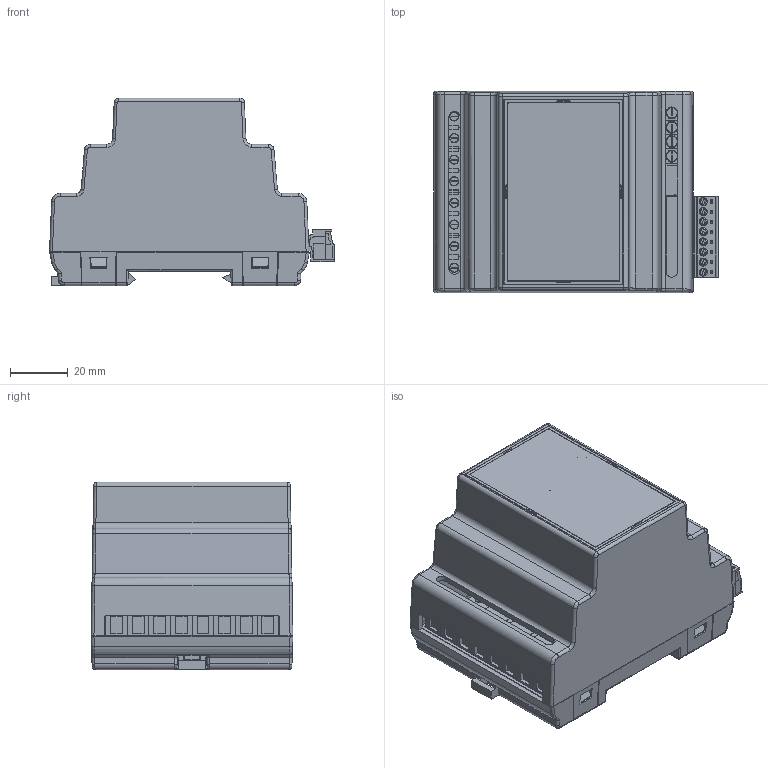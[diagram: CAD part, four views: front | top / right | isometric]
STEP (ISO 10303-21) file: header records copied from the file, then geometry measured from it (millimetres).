
FILE_DESCRIPTION(/* description */ ('','CAx-IF Rec.Pracs.---Representation and Presentation of Product Manufacturing Information (PMI)---3.8---2014-02-18'),/* implementation_level */ '2;1');
FILE_NAME(/* name */ 'C:\Users\user\Desktop\OP-1015 (PS-06m).stp',/* time_stamp */ '2024-08-29T13:52:30+02:00',/* author */ ('user'),/* organization */ (''),/* preprocessor_version */ 'ST-DEVELOPER v16.13',/* originating_system */ 'Autodesk Inventor 2018',/* authorisation */ '');
FILE_SCHEMA (('AP242_MANAGED_MODEL_BASED_3D_ENGINEERING_MIM_LF { 1 0 10303 442 1 1 4 }'));
Products named in the file (45): OP-1015; OP-1015_A; OP-1015-B_1; OP-1015_D; OP-1015_E; OP-267-D; OP-1015_naklejka-03; S_023.05.000.00058/...061; ST-1007_2_0_B; PCB Component; Board; GQ-SS_10A; GQ-SS-105LM1; DIODE-1206; SOT23-BEC; R0805; 1X10; FIDUCIAL_G10; FIDUCIAL_P10; ULO-TB71-128_5.0-02P-4000A_STANDARD; TB-7.5-P-2P-S; TSOT6; C1206; SOD80C; C0805; SMA_A; WE-TPC_5818_5828; C1206 (1); BSMD-S; SMB_A; CSV-E_F; SOT23; 15EDG-3.5-8P(H-Vwt); 15EDGRC-3.5; 15EDGRC-3.5_1; 15EDGRC-3.5-thickening; 15EDGRC-3.5-PIN; 15EDGK-3.5; 15EDGK-3.5_1; 15EDGK-3.5_top-cap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
Assembly tree (114 placements, depth 6):
  OP-1015
    OP-1015_A
    OP-1015-B_1
    OP-1015_D
    OP-1015_E
    OP-267-D
    OP-1015_naklejka-03
    S_023.05.000.00058/...061  x4
    ST-1007_2_0_B
      PCB Component
        Board
        GQ-SS_10A  x2
        GQ-SS-105LM1  x4
        DIODE-1206  x6
        SOT23-BEC  x6
        R0805  x8
        1X10
        FIDUCIAL_G10  x2
        FIDUCIAL_P10  x2
        ULO-TB71-128_5.0-02P-4000A_STANDARD  x2
        TB-7.5-P-2P-S  x4
        TSOT6
        C1206
        SOD80C
        C0805
        SMA_A
        WE-TPC_5818_5828
        C1206 (1)
        BSMD-S
        SMB_A
        CSV-E_F  x2
        SOT23
        15EDG-3.5-8P(H-Vwt)
          15EDGRC-3.5
            15EDGRC-3.5_1
            15EDGRC-3.5-PIN  x8
            15EDGRC-3.5-thickening  x2
          15EDGK-3.5
            15EDGK-3.5_klamper  x8
            15EDGK-3.5_screw  x8
            15EDGK-3.5_spring  x8
            15EDGK-3.5_1
            15EDGK-3.5_top-cap
        Skręcana łączka_1pin  x4
        ŁĄCZKA 7,5MM  x8
Bounding box: 98.84 x 70 x 65.06 mm (x, y, z)
Volume: 76518.4 mm3; surface area: 104952.4 mm2
Topology: 117 solids, 117 shells, 6039 faces, 16276 edges, 10758 vertices
Faces by surface type: plane 4302, bspline 916, cylinder 619, cone 156, torus 40, sphere 6
Full cylindrical faces by diameter (mm): 0.5 x110, 0.6 x9, 1 x20, 1.016 x10, 1.2 x16, 1.3 x20, 1.5 x16, 1.6 x2, 1.8 x16, 2 x16, 2.78 x8, 2.8 x8, 2.9 x4, 2.926 x8, 3 x8, 3.186 x8, 3.7 x4, 4 x4
Entity records: 151305 total; most frequent: CARTESIAN_POINT 45279, ORIENTED_EDGE 21426, DIRECTION 18944, EDGE_CURVE 10713, LINE 8112, VECTOR 8112, VERTEX_POINT 7273, AXIS2_PLACEMENT_3D 5562
